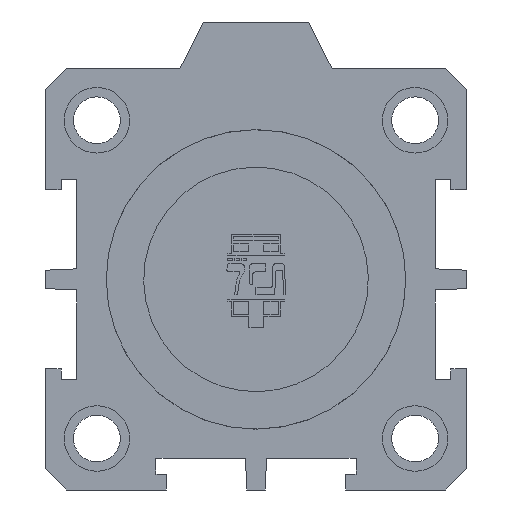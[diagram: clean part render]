
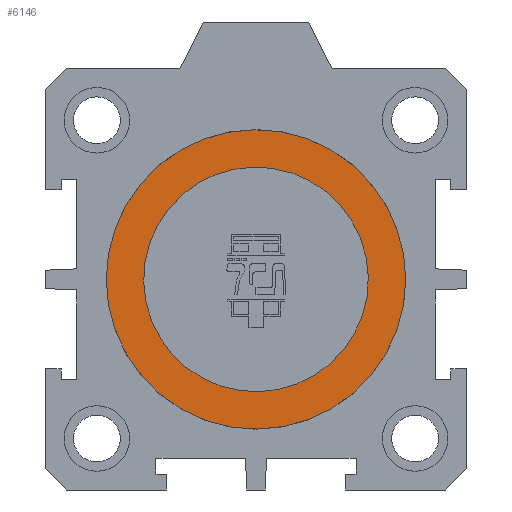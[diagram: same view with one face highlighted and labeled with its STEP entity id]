
A CAD part, left-side view. The second image highlights one B-rep face of the part: STEP entity #6146.
In plain terms, the highlighted planar face has unit normal (-1, 0, 0).
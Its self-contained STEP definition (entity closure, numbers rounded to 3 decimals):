
#3912=CARTESIAN_POINT('Axis2P3D Location',(3.5,0.,0.)) ;
#3916=CARTESIAN_POINT('Vertex',(3.5,-7.671,14.041)) ;
#3918=CARTESIAN_POINT('Vertex',(3.5,-16.,0.)) ;
#3939=CARTESIAN_POINT('Vertex',(3.5,16.,0.)) ;
#3942=CARTESIAN_POINT('Axis2P3D Location',(3.5,0.,0.)) ;
#3955=CARTESIAN_POINT('Axis2P3D Location',(3.5,0.,0.)) ;
#3959=CARTESIAN_POINT('Vertex',(3.5,7.671,-14.041)) ;
#3962=CARTESIAN_POINT('Axis2P3D Location',(3.5,0.,0.)) ;
#6117=CARTESIAN_POINT('Axis2P3D Location',(3.5,0.,16.)) ;
#6128=CARTESIAN_POINT('Axis2P3D Location',(3.5,0.,0.)) ;
#6132=CARTESIAN_POINT('Vertex',(3.5,5.753,-10.531)) ;
#6134=CARTESIAN_POINT('Vertex',(3.5,-5.753,10.531)) ;
#6137=CARTESIAN_POINT('Axis2P3D Location',(3.5,0.,0.)) ;
#3913=DIRECTION('Axis2P3D Direction',(1.,0.,0.)) ;
#3943=DIRECTION('Axis2P3D Direction',(1.,0.,0.)) ;
#3956=DIRECTION('Axis2P3D Direction',(1.,0.,0.)) ;
#3963=DIRECTION('Axis2P3D Direction',(1.,0.,0.)) ;
#6118=DIRECTION('Axis2P3D Direction',(1.,0.,0.)) ;
#6119=DIRECTION('Axis2P3D XDirection',(0.,1.,0.)) ;
#6129=DIRECTION('Axis2P3D Direction',(1.,0.,0.)) ;
#6138=DIRECTION('Axis2P3D Direction',(1.,0.,0.)) ;
#3914=AXIS2_PLACEMENT_3D('Circle Axis2P3D',#3912,#3913,$) ;
#3944=AXIS2_PLACEMENT_3D('Circle Axis2P3D',#3942,#3943,$) ;
#3957=AXIS2_PLACEMENT_3D('Circle Axis2P3D',#3955,#3956,$) ;
#3964=AXIS2_PLACEMENT_3D('Circle Axis2P3D',#3962,#3963,$) ;
#6120=AXIS2_PLACEMENT_3D('Plane Axis2P3D',#6117,#6118,#6119) ;
#6130=AXIS2_PLACEMENT_3D('Circle Axis2P3D',#6128,#6129,$) ;
#6139=AXIS2_PLACEMENT_3D('Circle Axis2P3D',#6137,#6138,$) ;
#6123=ORIENTED_EDGE('',*,*,#3961,.F.) ;
#6124=ORIENTED_EDGE('',*,*,#3920,.F.) ;
#6125=ORIENTED_EDGE('',*,*,#3946,.F.) ;
#6126=ORIENTED_EDGE('',*,*,#3966,.F.) ;
#6143=ORIENTED_EDGE('',*,*,#6136,.T.) ;
#6144=ORIENTED_EDGE('',*,*,#6141,.T.) ;
#6145=FACE_BOUND('',#6142,.T.) ;
#6146=ADVANCED_FACE('PartBody',(#6127,#6145),#6121,.F.) ;
#3915=CIRCLE('generated circle',#3914,16.) ;
#3945=CIRCLE('generated circle',#3944,16.) ;
#3958=CIRCLE('generated circle',#3957,16.) ;
#3965=CIRCLE('generated circle',#3964,16.) ;
#6131=CIRCLE('generated circle',#6130,12.) ;
#6140=CIRCLE('generated circle',#6139,12.) ;
#3920=EDGE_CURVE('',#3917,#3919,#3915,.T.) ;
#3946=EDGE_CURVE('',#3940,#3917,#3945,.T.) ;
#3961=EDGE_CURVE('',#3919,#3960,#3958,.T.) ;
#3966=EDGE_CURVE('',#3960,#3940,#3965,.T.) ;
#6136=EDGE_CURVE('',#6133,#6135,#6131,.T.) ;
#6141=EDGE_CURVE('',#6135,#6133,#6140,.T.) ;
#6122=EDGE_LOOP('',(#6123,#6124,#6125,#6126)) ;
#6142=EDGE_LOOP('',(#6143,#6144)) ;
#6127=FACE_OUTER_BOUND('',#6122,.T.) ;
#6121=PLANE('',#6120) ;
#3917=VERTEX_POINT('',#3916) ;
#3919=VERTEX_POINT('',#3918) ;
#3940=VERTEX_POINT('',#3939) ;
#3960=VERTEX_POINT('',#3959) ;
#6133=VERTEX_POINT('',#6132) ;
#6135=VERTEX_POINT('',#6134) ;
